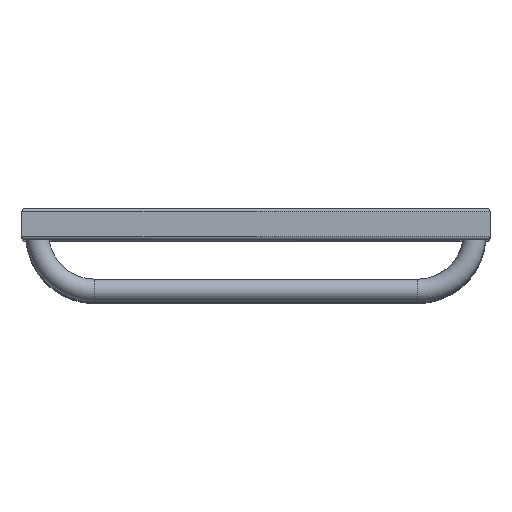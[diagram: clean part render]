
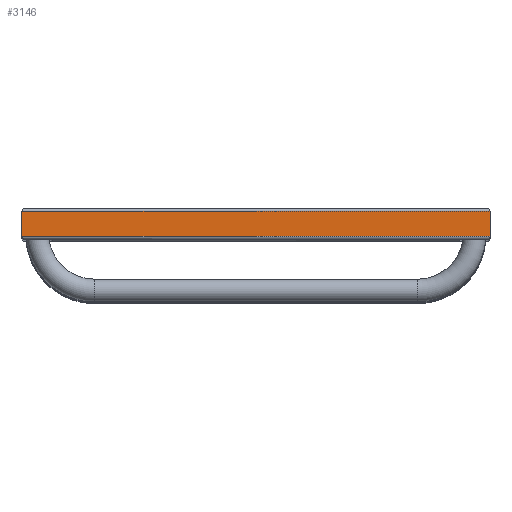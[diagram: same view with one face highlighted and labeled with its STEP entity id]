
A CAD part, top view. The second image highlights one B-rep face of the part: STEP entity #3146.
In plain terms, the highlighted planar face has unit normal (0, 0, 1).
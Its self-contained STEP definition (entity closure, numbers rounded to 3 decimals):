
#243=CARTESIAN_POINT('',(225.0,12.,1055.0));
#244=VERTEX_POINT('',#243);
#251=CARTESIAN_POINT('',(225.0,-12.,1055.0));
#252=VERTEX_POINT('',#251);
#253=CARTESIAN_POINT('',(225.0,12.,1055.0));
#254=DIRECTION('',(0.0,-1.0,0.0));
#255=VECTOR('',#254,24.0);
#256=LINE('',#253,#255);
#257=EDGE_CURVE('',#244,#252,#256,.T.);
#2997=CARTESIAN_POINT('',(-225.0,12.,1055.0));
#2998=VERTEX_POINT('',#2997);
#2999=CARTESIAN_POINT('',(-225.0,12.,1055.0));
#3000=DIRECTION('',(1.0,0.0,0.0));
#3001=VECTOR('',#3000,450.0);
#3002=LINE('',#2999,#3001);
#3003=EDGE_CURVE('',#2998,#244,#3002,.T.);
#3041=CARTESIAN_POINT('',(-225.0,-12.,1055.0));
#3042=VERTEX_POINT('',#3041);
#3049=CARTESIAN_POINT('',(-225.0,-12.,1055.0));
#3050=DIRECTION('',(0.0,1.0,0.0));
#3051=VECTOR('',#3050,24.);
#3052=LINE('',#3049,#3051);
#3053=EDGE_CURVE('',#3042,#2998,#3052,.T.);
#3105=CARTESIAN_POINT('',(225.0,-12.,1055.0));
#3106=DIRECTION('',(-1.0,0.0,0.0));
#3107=VECTOR('',#3106,450.0);
#3108=LINE('',#3105,#3107);
#3109=EDGE_CURVE('',#252,#3042,#3108,.T.);
#3135=CARTESIAN_POINT('',(210.0,0.,1055.0));
#3136=DIRECTION('',(0.0,0.0,1.0));
#3137=DIRECTION('',(1.0,0.0,0.0));
#3138=AXIS2_PLACEMENT_3D('',#3135,#3136,#3137);
#3139=PLANE('',#3138);
#3140=ORIENTED_EDGE('',*,*,#3003,.F.);
#3141=ORIENTED_EDGE('',*,*,#3053,.F.);
#3142=ORIENTED_EDGE('',*,*,#3109,.F.);
#3143=ORIENTED_EDGE('',*,*,#257,.F.);
#3144=EDGE_LOOP('',(#3140,#3141,#3142,#3143));
#3145=FACE_OUTER_BOUND('',#3144,.T.);
#3146=ADVANCED_FACE('',(#3145),#3139,.T.);
